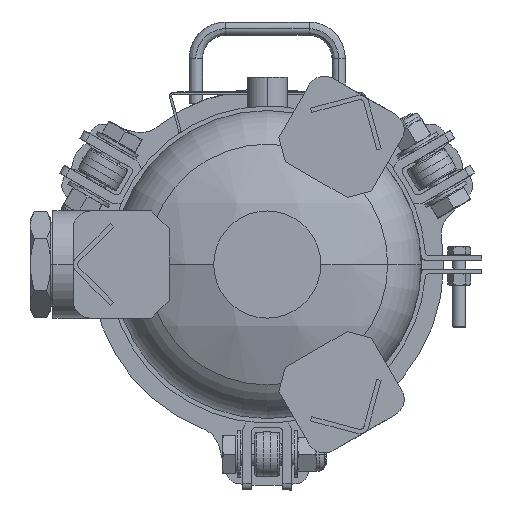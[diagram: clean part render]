
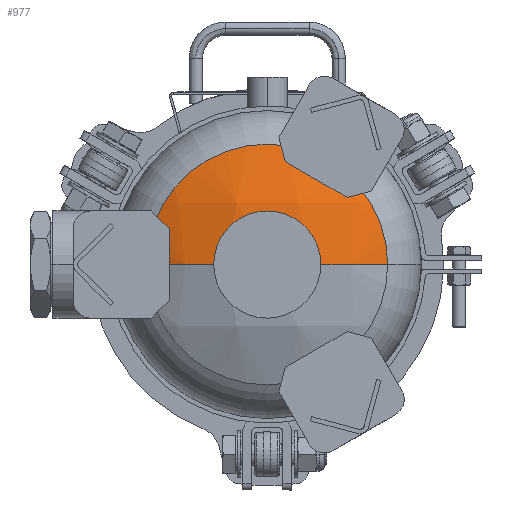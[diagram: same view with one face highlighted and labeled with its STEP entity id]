
A CAD part, front view. The second image highlights one B-rep face of the part: STEP entity #977.
In plain terms, the highlighted spherical face has radius 191.537 mm.
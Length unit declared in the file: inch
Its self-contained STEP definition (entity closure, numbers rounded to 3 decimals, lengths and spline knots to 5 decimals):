
#479 = DIRECTION ( 'NONE',  ( 0., 0., -1. ) ) ;
#808 = CARTESIAN_POINT ( 'NONE',  ( 0., -26.32875, 0. ) ) ;
#977 = ADVANCED_FACE ( 'NONE', ( #4640 ), #20889, .T. ) ;
#1342 = DIRECTION ( 'NONE',  ( 1., 0., 0. ) ) ;
#2075 = ORIENTED_EDGE ( 'NONE', *, *, #20353, .F. ) ;
#2322 = VERTEX_POINT ( 'NONE', #23209 ) ;
#2699 = EDGE_LOOP ( 'NONE', ( #2075, #6458, #9554 ) ) ;
#3963 = DIRECTION ( 'NONE',  ( 1., 0., 0. ) ) ;
#4228 = AXIS2_PLACEMENT_3D ( 'NONE', #5985, #14175, #3963 ) ;
#4640 = FACE_OUTER_BOUND ( 'NONE', #2699, .T. ) ;
#5985 = CARTESIAN_POINT ( 'NONE',  ( 0., -19.58419, 0. ) ) ;
#6458 = ORIENTED_EDGE ( 'NONE', *, *, #13085, .T. ) ;
#7262 = AXIS2_PLACEMENT_3D ( 'NONE', #808, #23363, #1342 ) ;
#9554 = ORIENTED_EDGE ( 'NONE', *, *, #12298, .T. ) ;
#12298 = EDGE_CURVE ( 'NONE', #25405, #2322, #23518, .T. ) ;
#12411 = VERTEX_POINT ( 'NONE', #17234 ) ;
#13085 = EDGE_CURVE ( 'NONE', #12411, #25405, #24853, .T. ) ;
#14175 = DIRECTION ( 'NONE',  ( 0., 0., 1. ) ) ;
#17181 = DIRECTION ( 'NONE',  ( -1., 0., 0. ) ) ;
#17234 = CARTESIAN_POINT ( 'NONE',  ( 3.37265, -26.32875, 0. ) ) ;
#19082 = CARTESIAN_POINT ( 'NONE',  ( 0., -19.58419, 0. ) ) ;
#20353 = EDGE_CURVE ( 'NONE', #12411, #2322, #26250, .T. ) ;
#20672 = AXIS2_PLACEMENT_3D ( 'NONE', #19082, #23232, #17181 ) ;
#20889 = SPHERICAL_SURFACE ( 'NONE', #24244, 7.54081 ) ;
#23156 = CARTESIAN_POINT ( 'NONE',  ( 0., -19.58419, 0. ) ) ;
#23209 = CARTESIAN_POINT ( 'NONE',  ( 0., -27.125, 0. ) ) ;
#23232 = DIRECTION ( 'NONE',  ( 0., 0., -1. ) ) ;
#23363 = DIRECTION ( 'NONE',  ( 0., -1., 0. ) ) ;
#23518 = CIRCLE ( 'NONE', #4228, 7.54081 ) ;
#24244 = AXIS2_PLACEMENT_3D ( 'NONE', #23156, #479, #24799 ) ;
#24643 = CARTESIAN_POINT ( 'NONE',  ( -3.37265, -26.32875, 0. ) ) ;
#24799 = DIRECTION ( 'NONE',  ( -1., 0., 0. ) ) ;
#24853 = CIRCLE ( 'NONE', #7262, 3.37265 ) ;
#25405 = VERTEX_POINT ( 'NONE', #24643 ) ;
#26250 = CIRCLE ( 'NONE', #20672, 7.54081 ) ;
